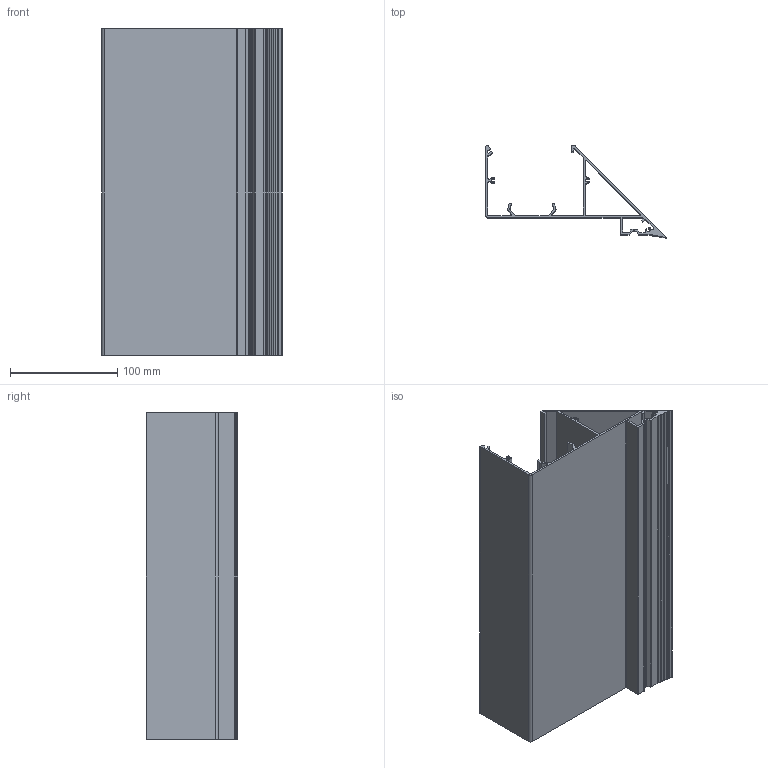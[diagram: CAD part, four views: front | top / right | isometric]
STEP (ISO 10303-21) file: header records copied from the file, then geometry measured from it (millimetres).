
FILE_DESCRIPTION (( 'STEP AP203' ), '1' );
FILE_NAME ('TROV 2 KNIFE EDGE COVE 12IN.STEP', '2023-05-24T20:45:14', ( '' ), ( '' ), 'SwSTEP 2.0', 'SolidWorks 2022', '' );
FILE_SCHEMA (( 'CONFIG_CONTROL_DESIGN' ));
Length unit declared in the file: millimetre
Products named in the file (1): TROV 2 KNIFE EDGE COVE 12IN
Bounding box: 168.29 x 85.43 x 304.8 mm (x, y, z)
Volume: 312616.4 mm3; surface area: 299609.6 mm2
Topology: 1 solids, 1 shells, 150 faces, 440 edges, 292 vertices
Faces by surface type: cylinder 83, plane 58, bspline 9
Entity records: 5576 total; most frequent: CARTESIAN_POINT 1470, ORIENTED_EDGE 880, DIRECTION 842, EDGE_CURVE 440, AXIS2_PLACEMENT_3D 300, VERTEX_POINT 292, LINE 242, VECTOR 242
